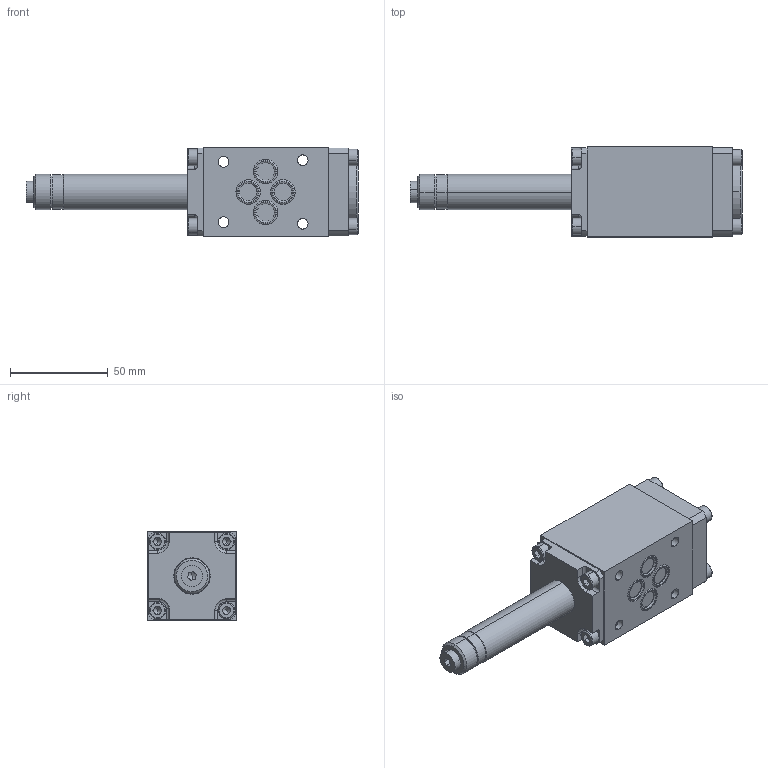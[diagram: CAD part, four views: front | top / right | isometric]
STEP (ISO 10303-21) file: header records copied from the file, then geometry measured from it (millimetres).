
FILE_DESCRIPTION (( 'STEP AP214' ), '1' );
FILE_NAME ('AEXd32061a-K9.STEP', '2018-07-04T14:00:34', ( '' ), ( '' ), 'SwSTEP 2.0', 'SolidWorks 2016', '' );
FILE_SCHEMA (( 'AUTOMOTIVE_DESIGN' ));
Length unit declared in the file: millimetre
Products named in the file (2): AEXd32061a-K9
Bounding box: 169.9 x 46 x 46 mm (x, y, z)
Volume: 186921.8 mm3; surface area: 46457.6 mm2
Topology: 19 solids, 20 shells, 878 faces, 2184 edges, 1369 vertices
Faces by surface type: plane 494, cylinder 191, cone 87, torus 60, bspline 46
Entity records: 37141 total; most frequent: CARTESIAN_POINT 6243, DIRECTION 4428, ORIENTED_EDGE 4312, EDGE_CURVE 2156, AXIS2_PLACEMENT_3D 1540, VERTEX_POINT 1369, LINE 1348, VECTOR 1348
